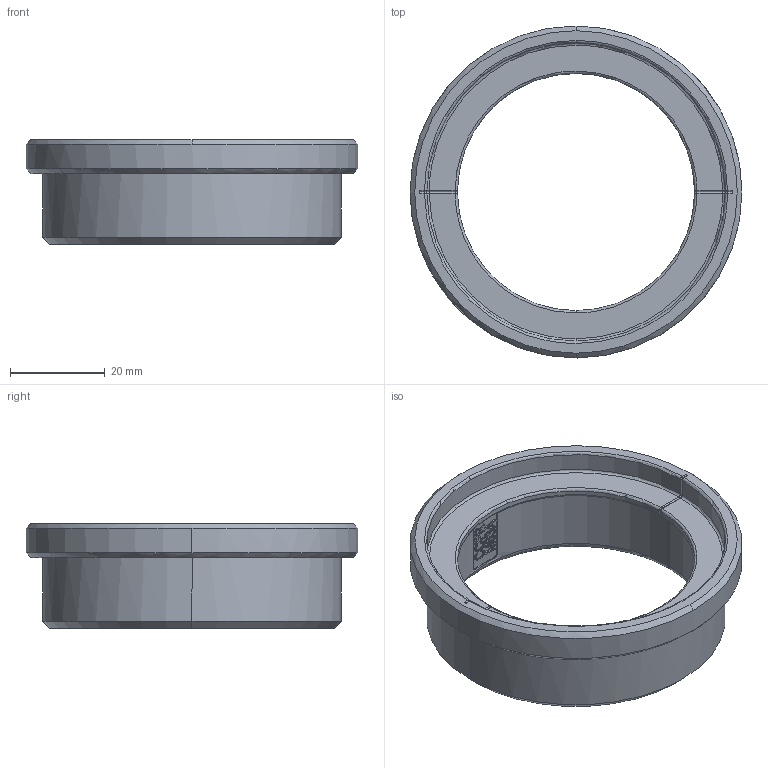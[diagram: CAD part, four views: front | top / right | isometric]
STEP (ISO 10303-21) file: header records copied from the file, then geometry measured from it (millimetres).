
FILE_DESCRIPTION (( 'STEP AP203' ), '1' );
FILE_NAME ('ccfrm63a.STEP', '2023-07-31T13:15:02', ( '' ), ( '' ), 'SwSTEP 2.0', 'SolidWorks 2020', '' );
FILE_SCHEMA (( 'CONFIG_CONTROL_DESIGN' ));
Length unit declared in the file: millimetre
Products named in the file (2): 89229760; ccfrm63a
Assembly tree (1 placements, depth 2):
  ccfrm63a
    89229760
Bounding box: 70 x 70 x 22.1 mm (x, y, z)
Volume: 18669.6 mm3; surface area: 11485.7 mm2
Topology: 1 solids, 1 shells, 377 faces, 1015 edges, 659 vertices
Faces by surface type: bspline 160, plane 108, cylinder 82, torus 18, cone 9
Entity records: 18673 total; most frequent: CARTESIAN_POINT 10569, ORIENTED_EDGE 2030, EDGE_CURVE 1015, DIRECTION 994, VERTEX_POINT 659, B_SPLINE_CURVE_WITH_KNOTS 555, EDGE_LOOP 398, FACE_OUTER_BOUND 377
